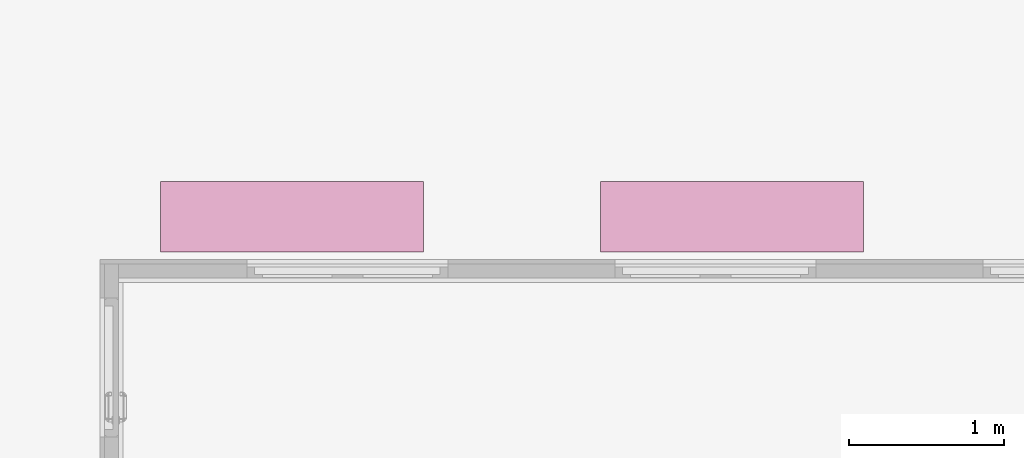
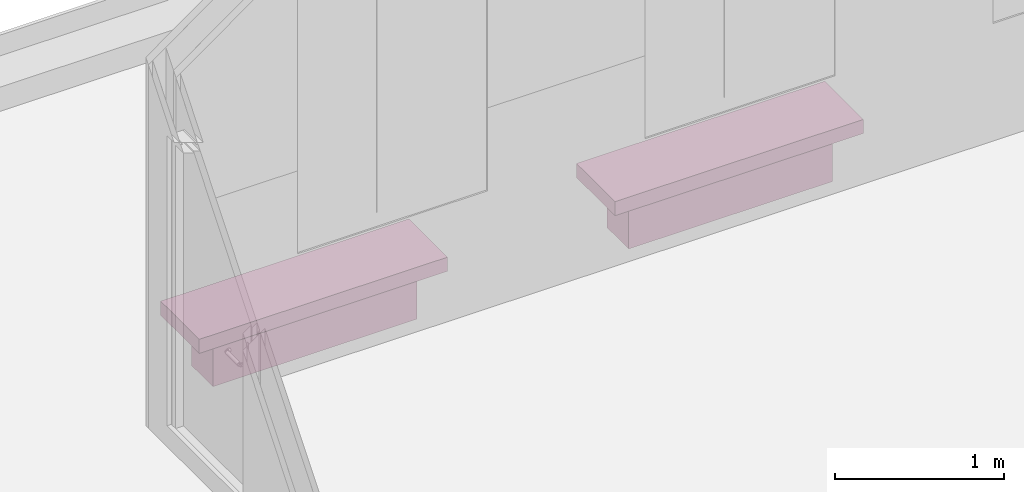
# One storey, part 5 of 5: 2 furnishings.
"""IFC2X3 building model written with IfcOpenShell, lengths in metres."""

from ifc_helpers import new_model, entity, si_unit, converted_unit, derived_unit, direction, frame, origin, origin_2d_with_axis, place, context, subcontext, project, spatial, rectangle, extrude, source, transform, mapped, material, type_object, type_shapes, element, save


model = new_model("IFC2X3")

# Units and contexts
model_context = context("Model", 3, precision=1e-05, world=origin(), true_north=direction((6.12303176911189e-17, 1.0)))
body_context = subcontext(model_context, "Body", "Model", "MODEL_VIEW")
ifc_project = project(units=[si_unit("LENGTHUNIT", "METRE"), si_unit("AREAUNIT", "SQUARE_METRE"), si_unit("VOLUMEUNIT", "CUBIC_METRE"), converted_unit("PLANEANGLEUNIT", "DEGREE", entity("IfcRatioMeasure", 0.0174532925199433), si_unit("PLANEANGLEUNIT", "RADIAN"), dimensions=[0, 0, 0, 0, 0, 0, 0]), si_unit("MASSUNIT", "GRAM", prefix="KILO"), derived_unit("MASSDENSITYUNIT", [(si_unit("MASSUNIT", "GRAM", prefix="KILO"), 1), (si_unit("LENGTHUNIT", "METRE"), -3)]), si_unit("TIMEUNIT", "SECOND"), si_unit("FREQUENCYUNIT", "HERTZ"), si_unit("THERMODYNAMICTEMPERATUREUNIT", "DEGREE_CELSIUS"), derived_unit("THERMALTRANSMITTANCEUNIT", [(si_unit("MASSUNIT", "GRAM", prefix="KILO"), 1), (si_unit("THERMODYNAMICTEMPERATUREUNIT", "KELVIN"), -1), (si_unit("TIMEUNIT", "SECOND"), -3)]), derived_unit("VOLUMETRICFLOWRATEUNIT", [(si_unit("LENGTHUNIT", "METRE"), 3), (si_unit("TIMEUNIT", "SECOND"), -1)]), si_unit("ELECTRICCURRENTUNIT", "AMPERE"), si_unit("ELECTRICVOLTAGEUNIT", "VOLT"), si_unit("POWERUNIT", "WATT"), si_unit("FORCEUNIT", "NEWTON", prefix="KILO"), si_unit("ILLUMINANCEUNIT", "LUX"), si_unit("LUMINOUSFLUXUNIT", "LUMEN"), si_unit("LUMINOUSINTENSITYUNIT", "CANDELA"), derived_unit("USERDEFINED", [(si_unit("MASSUNIT", "GRAM", prefix="KILO"), -1), (si_unit("LENGTHUNIT", "METRE"), -2), (si_unit("TIMEUNIT", "SECOND"), 3), (si_unit("LUMINOUSFLUXUNIT", "LUMEN"), 1)]), derived_unit("LINEARVELOCITYUNIT", [(si_unit("LENGTHUNIT", "METRE"), 1), (si_unit("TIMEUNIT", "SECOND"), -1)]), si_unit("PRESSUREUNIT", "PASCAL"), derived_unit("USERDEFINED", [(si_unit("LENGTHUNIT", "METRE"), -2), (si_unit("MASSUNIT", "GRAM", prefix="KILO"), 1), (si_unit("TIMEUNIT", "SECOND"), -2)])], contexts=[model_context])

# Site, building, storey
site_placement = place(None, frame((26.9889013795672, -17.5624287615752, 0.0)))
site = spatial("IfcSite", under=ifc_project, at=site_placement, Name="Default", CompositionType="ELEMENT")
building_placement = place(site_placement, origin())
building = spatial("IfcBuilding", under=site, at=building_placement, Name="C. C. L. Monsenhor Antônio Sampaio", CompositionType="ELEMENT")
storey_placement = place(building_placement, frame((0.0, 0.0, 0.799999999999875)))
storey = spatial("IfcBuildingStorey", under=building, at=storey_placement, Name="Nível 0.8", CompositionType="ELEMENT", Elevation=0.799999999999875)

# Furnishings
ifc_material = material(Name="Concrete")
furniture_type = type_object("IfcFurnitureType", Name="Concrete_Bench_7009", material=ifc_material)
shared_shape = source(origin(), body_context, "Body", "SweptSolid", [
    extrude(rectangle(XDim=0.254, YDim=1.3952, at=origin_2d_with_axis()), frame((0.849999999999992, 0.0, 0.0), z_axis=(0.0, 0.0, 1.0), x_axis=(0.0, 1.0, 0.0)), (0.0, 0.0, 1.0), 0.3556),
    extrude(rectangle(XDim=0.4572, YDim=1.7, at=origin_2d_with_axis()), frame((0.849999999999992, 0.0, 0.355599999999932), z_axis=(0.0, 0.0, 1.0), x_axis=(0.0, 1.0, 0.0)), (0.0, 0.0, 1.0), 0.1016),
])
type_shapes(furniture_type, [shared_shape])
for number, where, name in (
    (1, (4.12136805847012, -22.5076384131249, 0.0), "Banco Concreto:Concrete_Bench_7009"),
    (2, (6.96624179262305, -22.5076384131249, 0.0), "Banco Concreto:Concrete_Bench_7009"),
):
    element("IfcFurnishingElement", number, at=place(storey_placement, frame(where)), inside=storey, type_object=furniture_type, material=ifc_material, Name=name, ObjectType="Concrete_Bench_7009", context=body_context, shape_type="MappedRepresentation", body=[
        mapped(shared_shape, transform((0.0, 0.0, 0.0), scale=1.0)),
    ])

save(model, "model.ifc")
